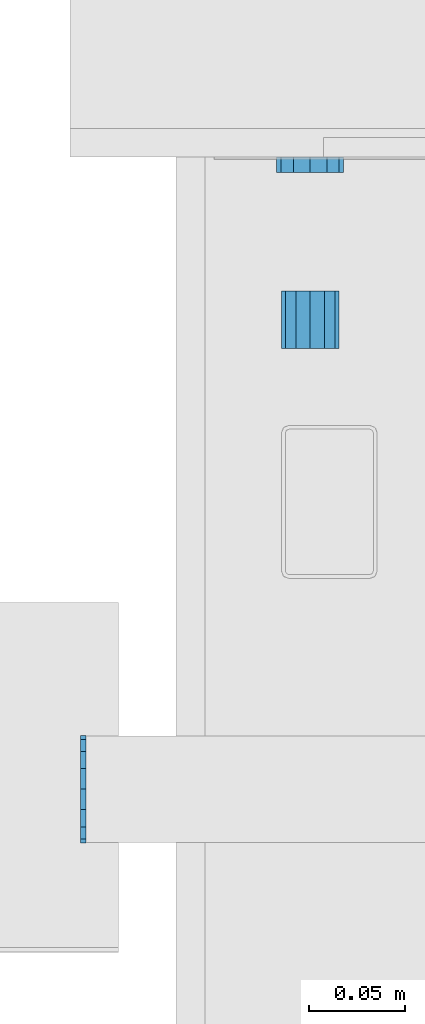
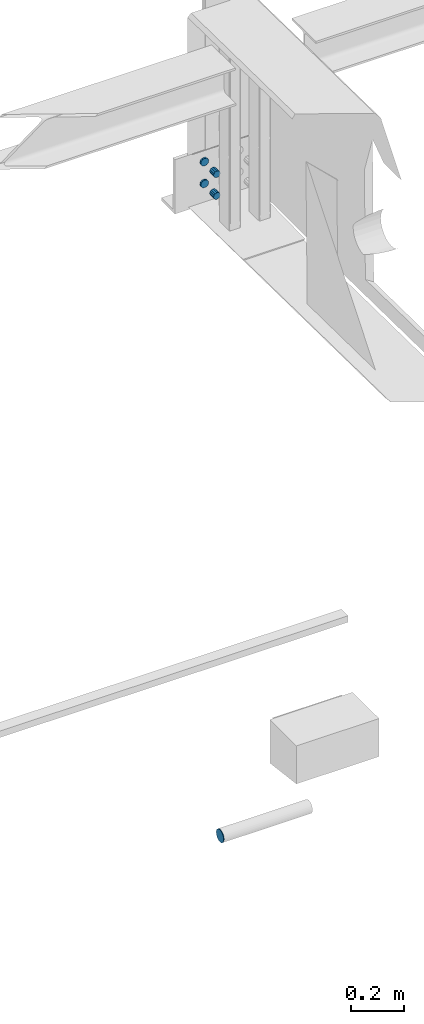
# One storey, part 103 of 186: 5 beams.
"""IFC4X3_ADD2 building model written with IfcOpenShell, lengths in millimetres."""

from ifc_helpers import new_model, si_unit, direction, frame, origin_with_axes, place, context, subcontext, project, spatial, indexed_curve, outline, extrude, material, element, save


model = new_model("IFC4X3_ADD2")

# Units and contexts
model_context = context("Model", 3, precision=1e-05, world=origin_with_axes(), true_north=direction((0.0, 1.0)))
body_context = subcontext(model_context, "Body", "Model", "MODEL_VIEW")
ifc_project = project(units=[si_unit("LENGTHUNIT", "METRE", prefix="MILLI"), si_unit("AREAUNIT", "SQUARE_METRE"), si_unit("VOLUMEUNIT", "CUBIC_METRE"), si_unit("PLANEANGLEUNIT", "RADIAN"), si_unit("TIMEUNIT", "SECOND"), si_unit("MASSUNIT", "GRAM")], contexts=[model_context])

# Site, building, storey
site_placement = place(None, origin_with_axes())
site = spatial("IfcSite", under=ifc_project, at=site_placement, Name="Site", CompositionType="ELEMENT")
building_placement = place(site_placement, origin_with_axes())
building = spatial("IfcBuilding", under=site, at=building_placement, Name="IFC Building Story")
storey_placement = place(building_placement, frame((0.0, 0.0, 4370.0), z_axis=(0.0, 0.0, 1.0), x_axis=(1.0, 0.0, 0.0)))
storey = spatial("IfcBuildingStorey", under=building, at=storey_placement, Name="ETAGE 10 (1)", Elevation=4370.0)

# Beams
ifc_material_1 = material(Name="STEEL/Accessory 22919")
beam_placement = place(storey_placement, frame((27564.1886362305, 17649.9997253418, 1168.305999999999), z_axis=(-1.0, 0.0, 0.0), x_axis=(0.0, 0.1950903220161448, 0.9807852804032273)))
element("IfcBeam", 1, at=beam_placement, inside=storey, material=ifc_material_1, Name="TA4", ObjectType="D56", context=body_context, shape_type="SweptSolid", body=[
    extrude(outline(indexed_curve([(23.28114914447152, 15.55596652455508), (27.46198785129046, 5.462529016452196), (27.46198785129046, -5.462529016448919), (23.28114914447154, -15.55596652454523), (15.55596652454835, -23.28114914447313), (5.462529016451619, -27.46198785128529), (-5.462529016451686, -27.46198785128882), (-15.55596652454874, -23.28114914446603), (-23.2811491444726, -15.55596652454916), (-27.46198785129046, -5.462529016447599), (-27.46198785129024, 5.462529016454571), (-23.28114914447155, 15.55596652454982), (-15.55596652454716, 23.28114914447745), (-5.462529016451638, 27.46198785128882), (5.462529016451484, 27.46198785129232), (15.55596652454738, 23.28114914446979), (23.28114914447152, 15.55596652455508)])), origin_with_axes(), (0.0, 0.0, 1.0), 2.999999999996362),
])
ifc_material_2 = material(Name="STEEL/Accessory_Hole_Concrete 8616")
for number, where, z_axis, x_axis, name in (
    (2, (27681.189, 17979.9989318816, 4030.000419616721), (0.0, -1.0, 0.0), (0.2588190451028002, 0.0, 0.9659258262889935), "ZW9"),
    (3, (27681.189, 17979.9989318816, 3930.000419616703), (0.0, -1.0, 0.0), (0.2588190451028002, 0.0, 0.9659258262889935), "ZW9"),
):
    element("IfcBeam", number, at=place(storey_placement, frame(where, z_axis=z_axis, x_axis=x_axis)), inside=storey, material=ifc_material_2, Name=name, ObjectType="D35", context=body_context, shape_type="SweptSolid", body=[
        extrude(outline(indexed_curve([(-12.37436867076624, -12.37436867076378), (-16.90370196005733, -4.529333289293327), (-16.90370196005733, 4.529333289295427), (-12.37436867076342, 12.37436867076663), (-4.52933328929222, 16.90370196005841), (4.529333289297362, 16.90370196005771), (12.374368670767, 12.37436867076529), (16.90370196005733, 4.529333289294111), (16.90370196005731, -4.529333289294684), (12.37436867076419, -12.37436867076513), (4.529333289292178, -16.90370196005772), (-4.529333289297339, -16.90370196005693), (-12.37436867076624, -12.37436867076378)])), origin_with_axes(), (0.0, 0.0, 1.0), 8.0),
    ])
ifc_material_3 = material(Name="STEEL/Accessory")
for number, where, z_axis, x_axis, name in (
    (4, (27681.1890000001, 17909.9989318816, 4030.000419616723), (0.0, -1.0, 0.0), (-0.9659258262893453, 0.0, -0.2588190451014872), "SD12"),
    (5, (27681.1890000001, 17909.9989318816, 3930.000419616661), (0.0, -1.0, 0.0), (-0.9659258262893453, 0.0, -0.2588190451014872), "SD12"),
):
    element("IfcBeam", number, at=place(storey_placement, frame(where, z_axis=z_axis, x_axis=x_axis)), inside=storey, material=ifc_material_3, Name=name, ObjectType="D30", context=body_context, shape_type="SweptSolid", body=[
        extrude(outline(indexed_curve([(10.60660171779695, 10.60660171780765), (14.48888739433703, 3.882285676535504), (14.48888739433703, -3.882285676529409), (10.60660171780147, -10.60660171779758), (3.882285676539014, -14.48888739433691), (-3.882285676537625, -14.48888739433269), (-10.60660171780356, -10.60660171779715), (-14.48888739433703, -3.882285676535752), (-14.48888739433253, 3.882285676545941), (-10.60660171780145, 10.60660171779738), (-3.882285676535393, 14.48888739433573), (3.882285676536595, 14.48888739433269), (10.60660171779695, 10.60660171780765)])), origin_with_axes(), (0.0, 0.0, 1.0), 30.0),
    ])

save(model, "model.ifc")
